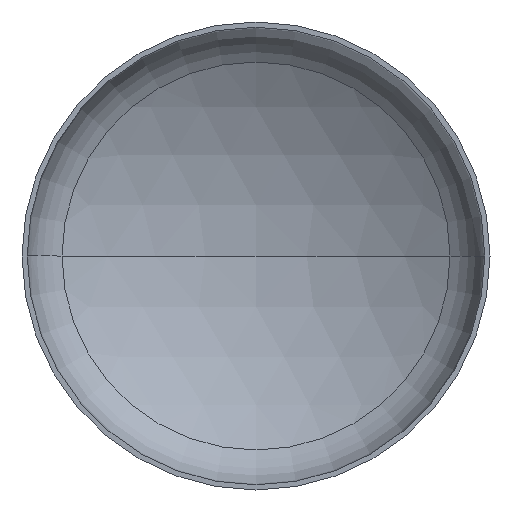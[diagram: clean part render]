
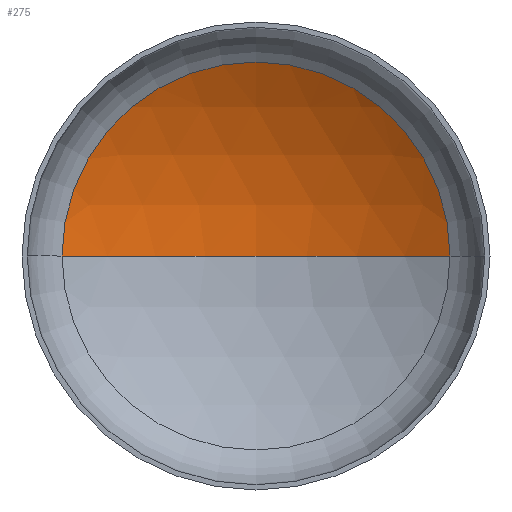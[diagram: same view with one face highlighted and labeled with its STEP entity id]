
A CAD part, front view. The second image highlights one B-rep face of the part: STEP entity #275.
In plain terms, the highlighted spherical face has radius 5600 mm.
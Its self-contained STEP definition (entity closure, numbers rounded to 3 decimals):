
#18 = CARTESIAN_POINT ( 'NONE',  ( 0., 1854.067, 0. ) ) ;
#32 = AXIS2_PLACEMENT_3D ( 'NONE', #126, #389, #381 ) ;
#39 = DIRECTION ( 'NONE',  ( 1., 0., 0. ) ) ;
#63 = AXIS2_PLACEMENT_3D ( 'NONE', #196, #388, #39 ) ;
#65 = VERTEX_POINT ( 'NONE', #184 ) ;
#71 = AXIS2_PLACEMENT_3D ( 'NONE', #204, #205, #191 ) ;
#75 = AXIS2_PLACEMENT_3D ( 'NONE', #177, #289, #288 ) ;
#125 = CIRCLE ( 'NONE', #63, 5600. ) ;
#126 = CARTESIAN_POINT ( 'NONE',  ( 0., -3745.933, 0. ) ) ;
#127 = VERTEX_POINT ( 'NONE', #302 ) ;
#134 = EDGE_CURVE ( 'NONE', #65, #127, #231, .T. ) ;
#138 = EDGE_CURVE ( 'NONE', #212, #65, #401, .T. ) ;
#143 = EDGE_CURVE ( 'NONE', #212, #127, #125, .T. ) ;
#162 = ORIENTED_EDGE ( 'NONE', *, *, #134, .T. ) ;
#176 = ORIENTED_EDGE ( 'NONE', *, *, #138, .T. ) ;
#177 = CARTESIAN_POINT ( 'NONE',  ( 0., 1043.718, 0. ) ) ;
#184 = CARTESIAN_POINT ( 'NONE',  ( 2901.593, 1043.718, 0. ) ) ;
#191 = DIRECTION ( 'NONE',  ( -1., 0., 0. ) ) ;
#195 = EDGE_LOOP ( 'NONE', ( #234, #176, #162 ) ) ;
#196 = CARTESIAN_POINT ( 'NONE',  ( 0., -3745.933, 0. ) ) ;
#204 = CARTESIAN_POINT ( 'NONE',  ( 0., -3745.933, 0. ) ) ;
#205 = DIRECTION ( 'NONE',  ( 0., 0., -1. ) ) ;
#212 = VERTEX_POINT ( 'NONE', #18 ) ;
#231 = CIRCLE ( 'NONE', #75, 2901.593 ) ;
#234 = ORIENTED_EDGE ( 'NONE', *, *, #143, .F. ) ;
#275 = ADVANCED_FACE ( 'NONE', ( #339 ), #385, .F. ) ;
#288 = DIRECTION ( 'NONE',  ( 1., 0., 0. ) ) ;
#289 = DIRECTION ( 'NONE',  ( 0., -1., 0. ) ) ;
#302 = CARTESIAN_POINT ( 'NONE',  ( -2901.593, 1043.718, 0. ) ) ;
#339 = FACE_OUTER_BOUND ( 'NONE', #195, .T. ) ;
#381 = DIRECTION ( 'NONE',  ( -1., 0., 0. ) ) ;
#385 = SPHERICAL_SURFACE ( 'NONE', #32, 5600. ) ;
#388 = DIRECTION ( 'NONE',  ( 0., 0., 1. ) ) ;
#389 = DIRECTION ( 'NONE',  ( 0., 0., -1. ) ) ;
#401 = CIRCLE ( 'NONE', #71, 5600. ) ;
